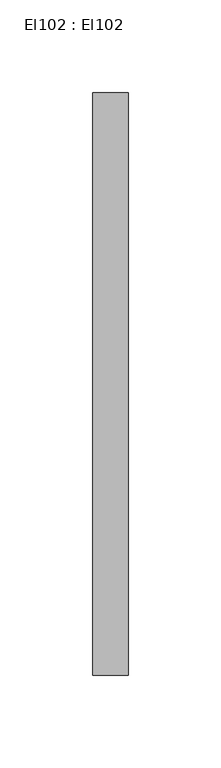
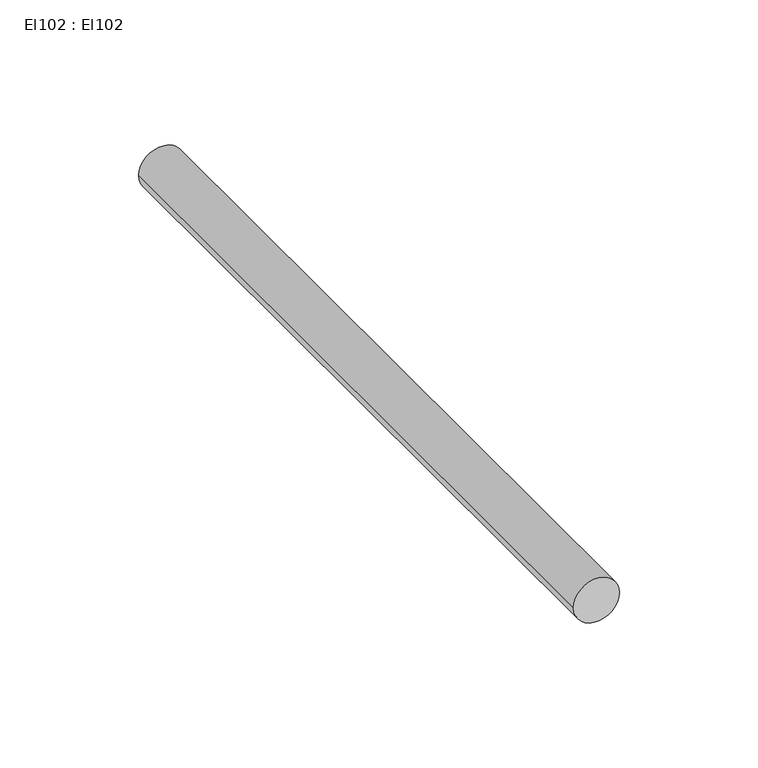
"""IFC4 building model written with IfcOpenShell, lengths in millimetres: cable carrier segment geometry, El102 : El102."""

from ifc_helpers import new_model, si_unit, point, frame, frame_2d, origin, place, context, project, spatial, circle_curve, trimmed, segment, composite_curve, outline, extrude, source, transform, mapped, element, save


def el102_el102_ca051df3(model_context):
    return source(origin(), model_context, "Body", "SweptSolid", [
        extrude(outline(composite_curve([segment(trimmed(circle_curve(frame_2d((300.0, 26330.0)), 9.5), [point((300.0, 26320.5))], [point((300.0, 26339.5))], False, "CARTESIAN"), True, "CONTINUOUS"), segment(trimmed(circle_curve(frame_2d((300.0, 26330.0)), 9.5), [point((300.0, 26339.5))], [point((300.0, 26320.5))], False, "CARTESIAN"), True, "CONTINUOUS")], self_intersect=False)), frame((0.0, 17731.118, 0.0), z_axis=(0.0, 1.0, 0.0), x_axis=(0.0, 0.0, 1.0)), (0.0, 0.0, 1.0), 313.564),
    ])


if __name__ == "__main__":
    model = new_model("IFC4")
    model_context = context("Model", 3, world=origin())
    ifc_project = project(units=[si_unit("LENGTHUNIT", "METRE", prefix="MILLI")], contexts=[model_context])
    site = spatial("IfcSite", under=ifc_project)
    building = spatial("IfcBuilding", under=site)
    placement = place(None, origin())
    el102_el102_shape = el102_el102_ca051df3(model_context)
    element("IfcCableCarrierSegment", 1, ObjectType="El102 : El102", at=placement, inside=building, context=model_context, shape_type="MappedRepresentation", body=[
        mapped(el102_el102_shape, transform((0.0, 0.0, 0.0), x_axis=(1.0, 0.0, 0.0), y_axis=(0.0, 1.0, 0.0), z_axis=(0.0, 0.0, 1.0))),
    ])
    save(model, "model.ifc")
